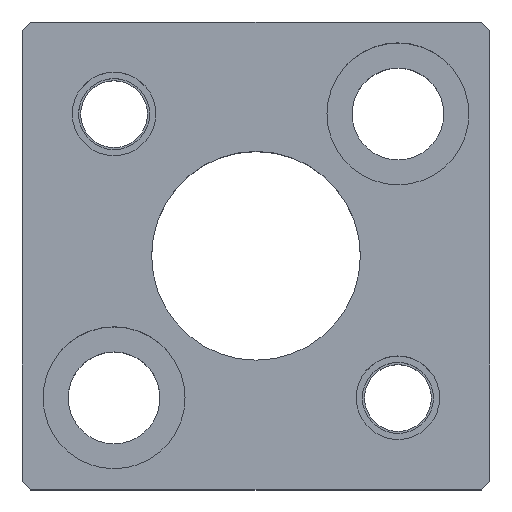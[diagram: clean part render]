
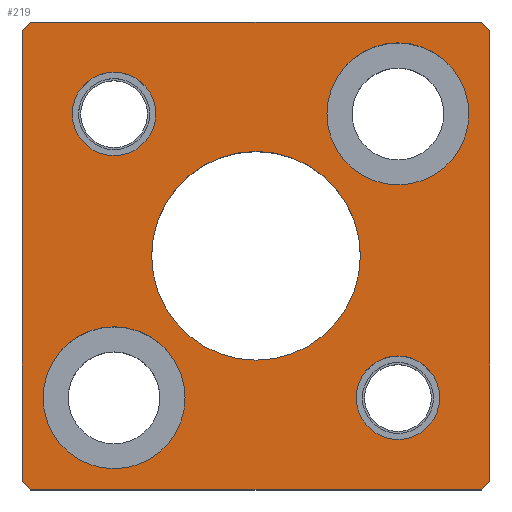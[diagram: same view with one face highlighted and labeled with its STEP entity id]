
A CAD part, top view. The second image highlights one B-rep face of the part: STEP entity #219.
In plain terms, the highlighted planar face has unit normal (0, 0, 1).
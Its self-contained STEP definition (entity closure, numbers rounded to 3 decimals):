
#99=FACE_BOUND('',#325,.T.);
#100=FACE_BOUND('',#326,.T.);
#101=FACE_BOUND('',#327,.T.);
#102=FACE_BOUND('',#328,.T.);
#103=FACE_BOUND('',#329,.T.);
#104=FACE_BOUND('',#330,.T.);
#149=CIRCLE('',#916,5.);
#151=CIRCLE('',#919,5.);
#153=CIRCLE('',#922,5.);
#155=CIRCLE('',#925,5.);
#165=CIRCLE('',#940,8.5);
#166=CIRCLE('',#941,8.5);
#167=CIRCLE('',#942,8.5);
#168=CIRCLE('',#943,8.5);
#169=CIRCLE('',#944,12.5);
#170=CIRCLE('',#945,12.5);
#219=ADVANCED_FACE('',(#99,#100,#101,#102,#103,#104),#258,.T.);
#258=PLANE('',#946);
#325=EDGE_LOOP('',(#461,#462,#463,#464,#465,#466,#467,#468));
#326=EDGE_LOOP('',(#469,#470));
#327=EDGE_LOOP('',(#471,#472));
#328=EDGE_LOOP('',(#473,#474));
#329=EDGE_LOOP('',(#475,#476));
#330=EDGE_LOOP('',(#477,#478));
#461=ORIENTED_EDGE('',*,*,#683,.T.);
#462=ORIENTED_EDGE('',*,*,#680,.T.);
#463=ORIENTED_EDGE('',*,*,#698,.T.);
#464=ORIENTED_EDGE('',*,*,#695,.T.);
#465=ORIENTED_EDGE('',*,*,#692,.T.);
#466=ORIENTED_EDGE('',*,*,#676,.T.);
#467=ORIENTED_EDGE('',*,*,#673,.T.);
#468=ORIENTED_EDGE('',*,*,#669,.T.);
#469=ORIENTED_EDGE('',*,*,#727,.F.);
#470=ORIENTED_EDGE('',*,*,#728,.F.);
#471=ORIENTED_EDGE('',*,*,#729,.F.);
#472=ORIENTED_EDGE('',*,*,#730,.F.);
#473=ORIENTED_EDGE('',*,*,#713,.F.);
#474=ORIENTED_EDGE('',*,*,#709,.F.);
#475=ORIENTED_EDGE('',*,*,#707,.F.);
#476=ORIENTED_EDGE('',*,*,#703,.F.);
#477=ORIENTED_EDGE('',*,*,#731,.T.);
#478=ORIENTED_EDGE('',*,*,#732,.T.);
#595=VERTEX_POINT('',#1264);
#596=VERTEX_POINT('',#1266);
#599=VERTEX_POINT('',#1274);
#601=VERTEX_POINT('',#1280);
#604=VERTEX_POINT('',#1287);
#605=VERTEX_POINT('',#1289);
#612=VERTEX_POINT('',#1312);
#614=VERTEX_POINT('',#1318);
#617=VERTEX_POINT('',#1333);
#618=VERTEX_POINT('',#1334);
#621=VERTEX_POINT('',#1345);
#622=VERTEX_POINT('',#1346);
#633=VERTEX_POINT('',#1381);
#634=VERTEX_POINT('',#1382);
#635=VERTEX_POINT('',#1385);
#636=VERTEX_POINT('',#1386);
#637=VERTEX_POINT('',#1389);
#638=VERTEX_POINT('',#1390);
#669=EDGE_CURVE('',#596,#595,#781,.T.);
#673=EDGE_CURVE('',#599,#596,#785,.T.);
#676=EDGE_CURVE('',#601,#599,#788,.T.);
#680=EDGE_CURVE('',#605,#604,#792,.T.);
#683=EDGE_CURVE('',#595,#605,#795,.T.);
#692=EDGE_CURVE('',#612,#601,#804,.T.);
#695=EDGE_CURVE('',#614,#612,#807,.T.);
#698=EDGE_CURVE('',#604,#614,#810,.T.);
#703=EDGE_CURVE('',#617,#618,#149,.T.);
#707=EDGE_CURVE('',#618,#617,#151,.T.);
#709=EDGE_CURVE('',#621,#622,#153,.T.);
#713=EDGE_CURVE('',#622,#621,#155,.T.);
#727=EDGE_CURVE('',#633,#634,#165,.T.);
#728=EDGE_CURVE('',#634,#633,#166,.T.);
#729=EDGE_CURVE('',#635,#636,#167,.T.);
#730=EDGE_CURVE('',#636,#635,#168,.T.);
#731=EDGE_CURVE('',#637,#638,#169,.T.);
#732=EDGE_CURVE('',#638,#637,#170,.T.);
#781=LINE('',#1265,#843);
#785=LINE('',#1273,#847);
#788=LINE('',#1279,#850);
#792=LINE('',#1288,#854);
#795=LINE('',#1294,#857);
#804=LINE('',#1311,#866);
#807=LINE('',#1317,#869);
#810=LINE('',#1323,#872);
#843=VECTOR('',#1005,1.);
#847=VECTOR('',#1011,1.);
#850=VECTOR('',#1016,1.);
#854=VECTOR('',#1022,1.);
#857=VECTOR('',#1027,1.);
#866=VECTOR('',#1042,1.);
#869=VECTOR('',#1047,1.);
#872=VECTOR('',#1052,1.);
#916=AXIS2_PLACEMENT_3D('',#1332,#1063,#1064);
#919=AXIS2_PLACEMENT_3D('',#1341,#1071,#1072);
#922=AXIS2_PLACEMENT_3D('',#1344,#1077,#1078);
#925=AXIS2_PLACEMENT_3D('',#1353,#1085,#1086);
#940=AXIS2_PLACEMENT_3D('',#1380,#1119,#1120);
#941=AXIS2_PLACEMENT_3D('',#1383,#1121,#1122);
#942=AXIS2_PLACEMENT_3D('',#1384,#1123,#1124);
#943=AXIS2_PLACEMENT_3D('',#1387,#1125,#1126);
#944=AXIS2_PLACEMENT_3D('',#1388,#1127,#1128);
#945=AXIS2_PLACEMENT_3D('',#1391,#1129,#1130);
#946=AXIS2_PLACEMENT_3D('',#1392,#1131,#1132);
#1005=DIRECTION('',(1.,0.,0.));
#1011=DIRECTION('',(0.707,-0.707,0.));
#1016=DIRECTION('',(0.,-1.,0.));
#1022=DIRECTION('',(0.,1.,0.));
#1027=DIRECTION('',(0.707,0.707,0.));
#1042=DIRECTION('',(-0.707,-0.707,0.));
#1047=DIRECTION('',(-1.,0.,0.));
#1052=DIRECTION('',(-0.707,0.707,0.));
#1063=DIRECTION('',(0.,0.,1.));
#1064=DIRECTION('',(-1.,0.,0.));
#1071=DIRECTION('',(0.,0.,1.));
#1072=DIRECTION('',(1.,0.,0.));
#1077=DIRECTION('',(0.,0.,1.));
#1078=DIRECTION('',(-1.,0.,0.));
#1085=DIRECTION('',(0.,0.,1.));
#1086=DIRECTION('',(1.,0.,0.));
#1119=DIRECTION('',(0.,0.,1.));
#1120=DIRECTION('',(1.,0.,0.));
#1121=DIRECTION('',(0.,0.,1.));
#1122=DIRECTION('',(-1.,0.,0.));
#1123=DIRECTION('',(0.,0.,1.));
#1124=DIRECTION('',(1.,0.,0.));
#1125=DIRECTION('',(0.,0.,1.));
#1126=DIRECTION('',(-1.,0.,0.));
#1127=DIRECTION('',(0.,0.,-1.));
#1128=DIRECTION('',(-1.,0.,0.));
#1129=DIRECTION('',(0.,0.,-1.));
#1130=DIRECTION('',(1.,0.,0.));
#1131=DIRECTION('',(0.,0.,1.));
#1132=DIRECTION('',(-1.,0.,0.));
#1264=CARTESIAN_POINT('',(27.,-28.,30.));
#1265=CARTESIAN_POINT('',(-27.,-28.,30.));
#1266=CARTESIAN_POINT('',(-27.,-28.,30.));
#1273=CARTESIAN_POINT('',(-27.,-28.,30.));
#1274=CARTESIAN_POINT('',(-28.,-27.,30.));
#1279=CARTESIAN_POINT('',(-28.,27.,30.));
#1280=CARTESIAN_POINT('',(-28.,27.,30.));
#1287=CARTESIAN_POINT('',(28.,27.,30.));
#1288=CARTESIAN_POINT('',(28.,27.,30.));
#1289=CARTESIAN_POINT('',(28.,-27.,30.));
#1294=CARTESIAN_POINT('',(28.,-27.,30.));
#1311=CARTESIAN_POINT('',(-28.,27.,30.));
#1312=CARTESIAN_POINT('',(-27.,28.,30.));
#1317=CARTESIAN_POINT('',(-27.,28.,30.));
#1318=CARTESIAN_POINT('',(27.,28.,30.));
#1323=CARTESIAN_POINT('',(27.,28.,30.));
#1332=CARTESIAN_POINT('',(17.,-17.,30.));
#1333=CARTESIAN_POINT('',(17.,-22.,30.));
#1334=CARTESIAN_POINT('',(17.,-12.,30.));
#1341=CARTESIAN_POINT('',(17.,-17.,30.));
#1344=CARTESIAN_POINT('',(-17.,17.,30.));
#1345=CARTESIAN_POINT('',(-17.,12.,30.));
#1346=CARTESIAN_POINT('',(-17.,22.,30.));
#1353=CARTESIAN_POINT('',(-17.,17.,30.));
#1380=CARTESIAN_POINT('',(17.,17.,30.));
#1381=CARTESIAN_POINT('',(17.,25.5,30.));
#1382=CARTESIAN_POINT('',(17.,8.5,30.));
#1383=CARTESIAN_POINT('',(17.,17.,30.));
#1384=CARTESIAN_POINT('',(-17.,-17.,30.));
#1385=CARTESIAN_POINT('',(-17.,-8.5,30.));
#1386=CARTESIAN_POINT('',(-17.,-25.5,30.));
#1387=CARTESIAN_POINT('',(-17.,-17.,30.));
#1388=CARTESIAN_POINT('',(0.,0.,30.));
#1389=CARTESIAN_POINT('',(0.,12.5,30.));
#1390=CARTESIAN_POINT('',(0.,-12.5,30.));
#1391=CARTESIAN_POINT('',(0.,0.,30.));
#1392=CARTESIAN_POINT('',(27.,-28.,30.));
